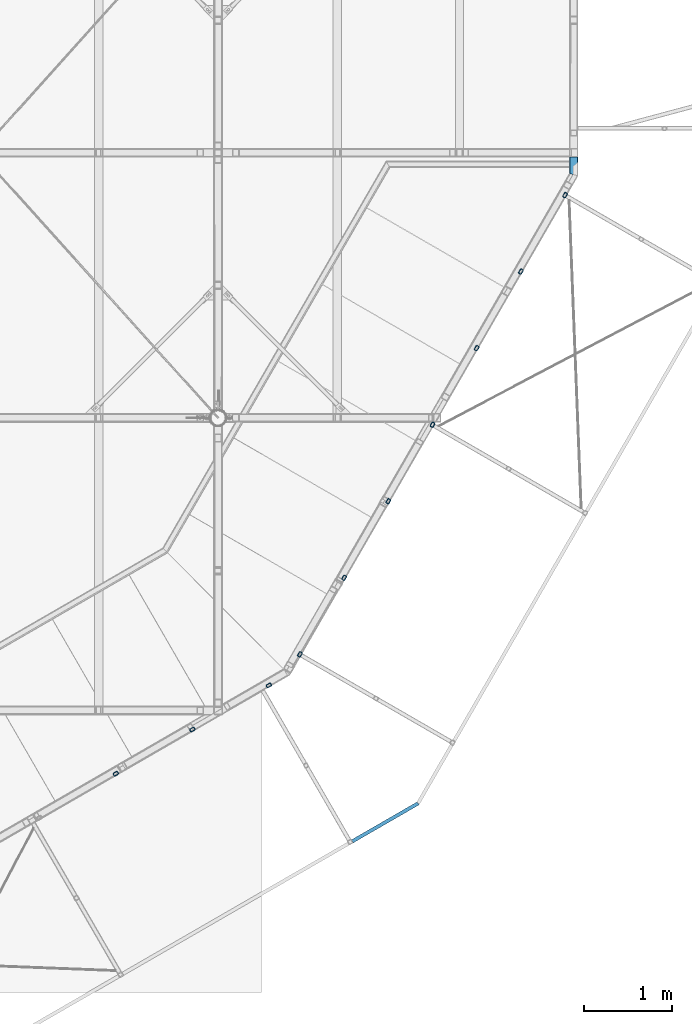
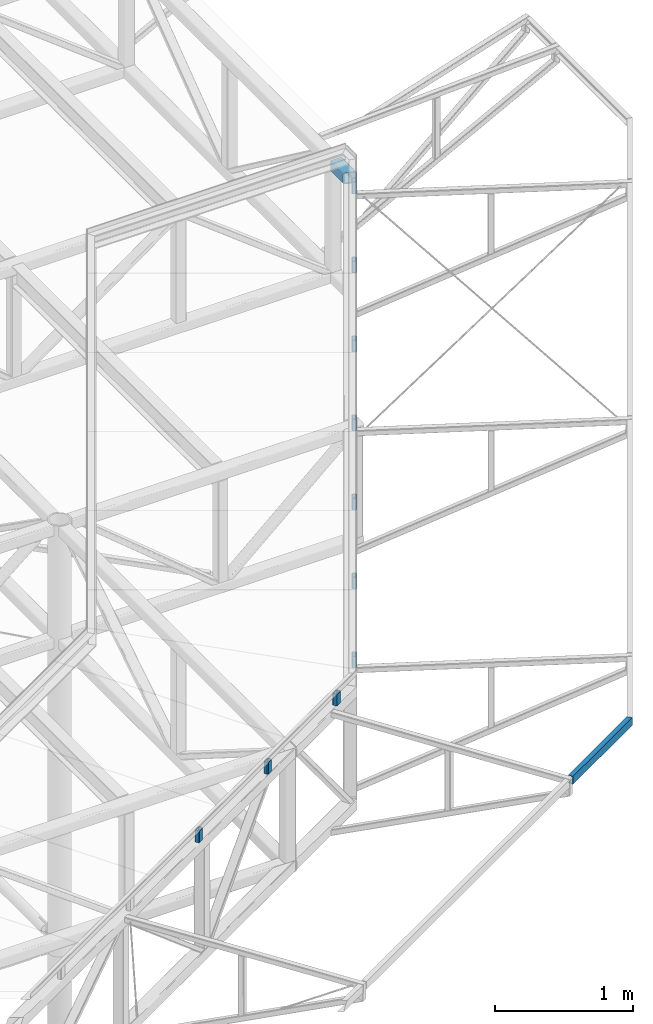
# One storey, part 24 of 132: 12 beams, 12 elements without a shape of their own.
"""IFC2X3 building model written with IfcOpenShell, lengths in millimetres."""

from ifc_helpers import new_model, si_unit, frame, origin_with_axes, origin_2d_with_axis, place, context, subcontext, project, spatial, hollow_rectangle, u_section, extrude, clip, halfspace, material, type_object, element, aggregate, save


model = new_model("IFC2X3")

# Units and contexts
model_context = context("Model", 3, precision=1e-05, world=origin_with_axes())
body_context = subcontext(model_context, "Body", "Model", "MODEL_VIEW")
ifc_project = project(units=[si_unit("LENGTHUNIT", "METRE", prefix="MILLI"), si_unit("AREAUNIT", "SQUARE_METRE"), si_unit("VOLUMEUNIT", "CUBIC_METRE"), si_unit("MASSUNIT", "GRAM", prefix="KILO"), si_unit("TIMEUNIT", "SECOND"), si_unit("PLANEANGLEUNIT", "RADIAN"), si_unit("SOLIDANGLEUNIT", "STERADIAN"), si_unit("THERMODYNAMICTEMPERATUREUNIT", "DEGREE_CELSIUS"), si_unit("LUMINOUSINTENSITYUNIT", "LUMEN")], contexts=[model_context])

# Site, building, storey
site_placement = place(None, origin_with_axes())
site = spatial("IfcSite", under=ifc_project, at=site_placement, Name="Budowa", CompositionType="ELEMENT")
building_placement = place(site_placement, origin_with_axes())
building = spatial("IfcBuilding", under=site, at=building_placement, Name="Undefined", CompositionType="ELEMENT")
storey_placement = place(building_placement, origin_with_axes())
storey = spatial("IfcBuildingStorey", under=building, at=storey_placement, Name="Undefined", CompositionType="ELEMENT", Elevation=0.0)

# Assembly, beam
assembly_1_placement = place(storey_placement, origin_with_axes())
assembly_1 = element("IfcElementAssembly", 1, at=assembly_1_placement, inside=storey, Name="Steel Assembly", AssemblyPlace="NOTDEFINED", PredefinedType="RIGID_FRAME")
ifc_material = material(Name="STEEL/S235")
beam_type_1 = type_object("IfcBeamType", Name="RHS60*40*6", PredefinedType="NOTDEFINED")
beam_1_placement = place(assembly_1_placement, frame((21151.5635258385, 3324.40577576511, 13984.0000000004), z_axis=(-0.500000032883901, -0.866025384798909, 0.0), x_axis=(0.0, 0.0, -1.0)))
beam_1 = element("IfcBeam", 2, at=beam_1_placement, type_object=beam_type_1, material=ifc_material, Name="BEAM", ObjectType="RHS60*40*6", context=body_context, shape_type="SweptSolid", body=[
    extrude(hollow_rectangle(XDim=40.0, YDim=60.0, WallThickness=6.0, InnerFilletRadius=6.0, OuterFilletRadius=12.0, at=origin_2d_with_axis()), frame((103.597744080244, 0.0, 0.0), z_axis=(-1.0, 0.0, 0.0), x_axis=(0.0, -1.0, 0.0)), (0.0, 0.0, 1.0), 103.6),
])
aggregate(assembly_1, [beam_1])

assembly_2_placement = place(storey_placement, origin_with_axes())
assembly_2 = element("IfcElementAssembly", 3, at=assembly_2_placement, inside=storey, Name="Steel Assembly", AssemblyPlace="NOTDEFINED", PredefinedType="RIGID_FRAME")
beam_2_placement = place(assembly_2_placement, frame((21651.5635587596, 4190.43116054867, 13984.0000000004), z_axis=(-0.500000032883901, -0.866025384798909, 0.0), x_axis=(0.0, 0.0, -1.0)))
beam_2 = element("IfcBeam", 4, at=beam_2_placement, type_object=beam_type_1, material=ifc_material, Name="BEAM", ObjectType="RHS60*40*6", context=body_context, shape_type="SweptSolid", body=[
    extrude(hollow_rectangle(XDim=40.0, YDim=60.0, WallThickness=6.0, InnerFilletRadius=6.0, OuterFilletRadius=12.0, at=origin_2d_with_axis()), frame((103.597744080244, 0.0, 0.0), z_axis=(-1.0, 0.0, 0.0), x_axis=(0.0, -1.0, 0.0)), (0.0, 0.0, 1.0), 103.6),
])
aggregate(assembly_2, [beam_2])

assembly_3_placement = place(storey_placement, origin_with_axes())
assembly_3 = element("IfcElementAssembly", 5, at=assembly_3_placement, inside=storey, Name="Steel Assembly", AssemblyPlace="NOTDEFINED", PredefinedType="RIGID_FRAME")
beam_3_placement = place(assembly_3_placement, frame((24151.5637231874, 8520.5580845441, 13984.0000000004), z_axis=(-0.500000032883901, -0.866025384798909, 0.0), x_axis=(0.0, 0.0, -1.0)))
beam_3 = element("IfcBeam", 6, at=beam_3_placement, type_object=beam_type_1, material=ifc_material, Name="BEAM", ObjectType="RHS60*40*6", context=body_context, shape_type="SweptSolid", body=[
    extrude(hollow_rectangle(XDim=40.0, YDim=60.0, WallThickness=6.0, InnerFilletRadius=6.0, OuterFilletRadius=12.0, at=origin_2d_with_axis()), frame((103.597744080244, 0.0, 0.0), z_axis=(-1.0, 0.0, 0.0), x_axis=(0.0, -1.0, 0.0)), (0.0, 0.0, 1.0), 103.6),
])
aggregate(assembly_3, [beam_3])

assembly_4_placement = place(storey_placement, origin_with_axes())
assembly_4 = element("IfcElementAssembly", 7, at=assembly_4_placement, inside=storey, Name="Steel Assembly", AssemblyPlace="NOTDEFINED", PredefinedType="RIGID_FRAME")
beam_4_placement = place(assembly_4_placement, frame((23651.5636903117, 7654.53269974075, 13984.0000000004), z_axis=(-0.500000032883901, -0.866025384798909, 0.0), x_axis=(0.0, 0.0, -1.0)))
beam_4 = element("IfcBeam", 8, at=beam_4_placement, type_object=beam_type_1, material=ifc_material, Name="BEAM", ObjectType="RHS60*40*6", context=body_context, shape_type="SweptSolid", body=[
    extrude(hollow_rectangle(XDim=40.0, YDim=60.0, WallThickness=6.0, InnerFilletRadius=6.0, OuterFilletRadius=12.0, at=origin_2d_with_axis()), frame((103.597744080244, 0.0, 0.0), z_axis=(-1.0, 0.0, 0.0), x_axis=(0.0, -1.0, 0.0)), (0.0, 0.0, 1.0), 103.6),
])
aggregate(assembly_4, [beam_4])

assembly_5_placement = place(storey_placement, origin_with_axes())
assembly_5 = element("IfcElementAssembly", 9, at=assembly_5_placement, inside=storey, Name="Steel Assembly", AssemblyPlace="NOTDEFINED", PredefinedType="RIGID_FRAME")
beam_5_placement = place(assembly_5_placement, frame((23151.5636574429, 6788.50731493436, 13984.0000000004), z_axis=(-0.500000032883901, -0.866025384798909, 0.0), x_axis=(0.0, 0.0, -1.0)))
beam_5 = element("IfcBeam", 10, at=beam_5_placement, type_object=beam_type_1, material=ifc_material, Name="BEAM", ObjectType="RHS60*40*6", context=body_context, shape_type="SweptSolid", body=[
    extrude(hollow_rectangle(XDim=40.0, YDim=60.0, WallThickness=6.0, InnerFilletRadius=6.0, OuterFilletRadius=12.0, at=origin_2d_with_axis()), frame((103.597744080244, 0.0, 0.0), z_axis=(-1.0, 0.0, 0.0), x_axis=(0.0, -1.0, 0.0)), (0.0, 0.0, 1.0), 103.6),
])
aggregate(assembly_5, [beam_5])

assembly_6_placement = place(storey_placement, origin_with_axes())
assembly_6 = element("IfcElementAssembly", 11, at=assembly_6_placement, inside=storey, Name="Steel Assembly", AssemblyPlace="NOTDEFINED", PredefinedType="RIGID_FRAME")
beam_6_placement = place(assembly_6_placement, frame((22151.5635916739, 5056.45654533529, 13984.0000000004), z_axis=(-0.500000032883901, -0.866025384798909, 0.0), x_axis=(0.0, 0.0, -1.0)))
beam_6 = element("IfcBeam", 12, at=beam_6_placement, type_object=beam_type_1, material=ifc_material, Name="BEAM", ObjectType="RHS60*40*6", context=body_context, shape_type="SweptSolid", body=[
    extrude(hollow_rectangle(XDim=40.0, YDim=60.0, WallThickness=6.0, InnerFilletRadius=6.0, OuterFilletRadius=12.0, at=origin_2d_with_axis()), frame((103.597744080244, 0.0, 0.0), z_axis=(-1.0, 0.0, 0.0), x_axis=(0.0, -1.0, 0.0)), (0.0, 0.0, 1.0), 103.6),
])
aggregate(assembly_6, [beam_6])

assembly_7_placement = place(storey_placement, origin_with_axes())
assembly_7 = element("IfcElementAssembly", 13, at=assembly_7_placement, inside=storey, Name="Steel Assembly", AssemblyPlace="NOTDEFINED", PredefinedType="RIGID_FRAME")
beam_7_placement = place(assembly_7_placement, frame((22651.5636245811, 5922.48193012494, 13984.0000000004), z_axis=(-0.500000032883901, -0.866025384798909, 0.0), x_axis=(0.0, 0.0, -1.0)))
beam_7 = element("IfcBeam", 14, at=beam_7_placement, type_object=beam_type_1, material=ifc_material, Name="BEAM", ObjectType="RHS60*40*6", context=body_context, shape_type="SweptSolid", body=[
    extrude(hollow_rectangle(XDim=40.0, YDim=60.0, WallThickness=6.0, InnerFilletRadius=6.0, OuterFilletRadius=12.0, at=origin_2d_with_axis()), frame((103.597744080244, 0.0, 0.0), z_axis=(-1.0, 0.0, 0.0), x_axis=(0.0, -1.0, 0.0)), (0.0, 0.0, 1.0), 103.6),
])
aggregate(assembly_7, [beam_7])

assembly_8_placement = place(storey_placement, origin_with_axes())
assembly_8 = element("IfcElementAssembly", 15, at=assembly_8_placement, inside=storey, Name="Steel Assembly", AssemblyPlace="NOTDEFINED", PredefinedType="RIGID_FRAME")
beam_8_placement = place(assembly_8_placement, frame((20800.4886877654, 2973.40354669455, 13984.0000000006), z_axis=(-0.866042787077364, -0.499969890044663, 0.0), x_axis=(0.0, 0.0, -1.0)))
beam_8 = element("IfcBeam", 16, at=beam_8_placement, type_object=beam_type_1, material=ifc_material, Name="BEAM", ObjectType="RHS60*40*6", context=body_context, shape_type="SweptSolid", body=[
    extrude(hollow_rectangle(XDim=40.0, YDim=60.0, WallThickness=6.0, InnerFilletRadius=6.0, OuterFilletRadius=12.0, at=origin_2d_with_axis()), frame((103.988921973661, 0.0, 0.0), z_axis=(-1.0, 0.0, 0.0), x_axis=(0.0, -1.0, 0.0)), (0.0, 0.0, 1.0), 103.99),
])
aggregate(assembly_8, [beam_8])

assembly_9_placement = place(storey_placement, origin_with_axes())
assembly_9 = element("IfcElementAssembly", 17, at=assembly_9_placement, inside=storey, Name="Steel Assembly", AssemblyPlace="NOTDEFINED", PredefinedType="RIGID_FRAME")
beam_9_placement = place(assembly_9_placement, frame((19934.4459006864, 2473.43365665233, 13984.0000000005), z_axis=(-0.866042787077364, -0.499969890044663, 0.0), x_axis=(0.0, 0.0, -1.0)))
beam_9 = element("IfcBeam", 18, at=beam_9_placement, type_object=beam_type_1, material=ifc_material, Name="BEAM", ObjectType="RHS60*40*6", context=body_context, shape_type="SweptSolid", body=[
    extrude(hollow_rectangle(XDim=40.0, YDim=60.0, WallThickness=6.0, InnerFilletRadius=6.0, OuterFilletRadius=12.0, at=origin_2d_with_axis()), frame((103.988921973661, 0.0, 0.0), z_axis=(-1.0, 0.0, 0.0), x_axis=(0.0, -1.0, 0.0)), (0.0, 0.0, 1.0), 103.99),
])
aggregate(assembly_9, [beam_9])

assembly_10_placement = place(storey_placement, origin_with_axes())
assembly_10 = element("IfcElementAssembly", 19, at=assembly_10_placement, inside=storey, Name="Steel Assembly", AssemblyPlace="NOTDEFINED", PredefinedType="RIGID_FRAME")
beam_10_placement = place(assembly_10_placement, frame((19068.4031135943, 1973.46376663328, 13984.0000000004), z_axis=(-0.866042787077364, -0.499969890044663, 0.0), x_axis=(0.0, 0.0, -1.0)))
beam_10 = element("IfcBeam", 20, at=beam_10_placement, type_object=beam_type_1, material=ifc_material, Name="BEAM", ObjectType="RHS60*40*6", context=body_context, shape_type="SweptSolid", body=[
    extrude(hollow_rectangle(XDim=40.0, YDim=60.0, WallThickness=6.0, InnerFilletRadius=6.0, OuterFilletRadius=12.0, at=origin_2d_with_axis()), frame((103.988921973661, 0.0, 0.0), z_axis=(-1.0, 0.0, 0.0), x_axis=(0.0, -1.0, 0.0)), (0.0, 0.0, 1.0), 103.99),
])
aggregate(assembly_10, [beam_10])

assembly_11_placement = place(storey_placement, origin_with_axes())
assembly_11 = element("IfcElementAssembly", 21, at=assembly_11_placement, inside=storey, Name="Steel Assembly", AssemblyPlace="NOTDEFINED", PredefinedType="RIGID_FRAME")
beam_type_2 = type_object("IfcBeamType", Name="C70*40*4", PredefinedType="NOTDEFINED")
beam_11_placement = place(assembly_11_placement, frame((21744.5687999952, 1208.97226398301, 13945.0050192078), z_axis=(0.0, 0.0, -1.0), x_axis=(0.866042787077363, 0.499969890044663, 0.0)))
beam_11 = element("IfcBeam", 22, at=beam_11_placement, type_object=beam_type_2, material=ifc_material, Name="BEAM", ObjectType="C70*40*4", context=body_context, shape_type="Clipping", body=[
    clip(extrude(u_section(Depth=70.0, FlangeWidth=40.0, WebThickness=4.0, FlangeThickness=4.0, FilletRadius=6.0, at=origin_2d_with_axis()), frame((895.286498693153, 4.96983842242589e-14, 1.81898940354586e-12), z_axis=(-1.0, 0.0, 0.0), x_axis=(0.0, -1.0, 0.0)), (0.0, 0.0, 1.0), 895.29), halfspace(frame((852.233750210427, -20.0000691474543, 0.00219677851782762), z_axis=(-0.965917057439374, 0.258851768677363, -5.11236501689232e-07), x_axis=(-1.71128704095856e-10, -1.71094966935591e-06, -0.999999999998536)), True)),
])
aggregate(assembly_11, [beam_11])

assembly_12_placement = place(storey_placement, origin_with_axes())
assembly_12 = element("IfcElementAssembly", 23, at=assembly_12_placement, inside=storey, Name="Steel Assembly", AssemblyPlace="NOTDEFINED", PredefinedType="RIGID_FRAME")
beam_type_3 = type_object("IfcBeamType", Name="SHS100*8", PredefinedType="NOTDEFINED")
beam_12_placement = place(assembly_12_placement, frame((24250.000107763, 8737.71781926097, 13830.0), z_axis=(1.0, 0.0, 0.0), x_axis=(0.0, 1.0, 0.0)))
beam_12 = element("IfcBeam", 24, at=beam_12_placement, type_object=beam_type_3, material=ifc_material, Name="BEAM", ObjectType="SHS100*8", context=body_context, shape_type="Clipping", body=[
    clip(extrude(hollow_rectangle(XDim=100.0, YDim=100.0, WallThickness=8.0, InnerFilletRadius=8.0, OuterFilletRadius=16.0, at=origin_2d_with_axis()), frame((212.282180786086, 0.0, 0.0), z_axis=(-1.0, 0.0, 0.0), x_axis=(0.0, -1.0, 0.0)), (0.0, 0.0, 1.0), 212.42), halfspace(frame((-1.38836367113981e-06, 0.0, 50.0), z_axis=(0.965925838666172, 0.0, 0.258818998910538), x_axis=(0.0, 1.0, 0.0)), True)),
])
aggregate(assembly_12, [beam_12])

save(model, "model.ifc")
